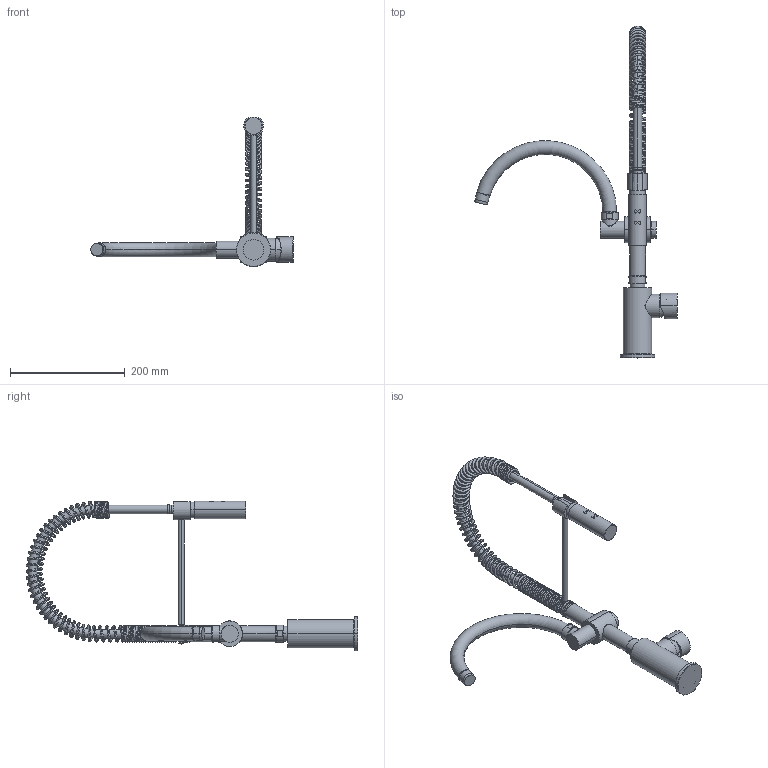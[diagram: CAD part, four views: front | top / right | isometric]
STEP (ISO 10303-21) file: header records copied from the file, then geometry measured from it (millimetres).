
FILE_DESCRIPTION((''),'2;1');
FILE_NAME('3D_SW0001','2014-07-31T',('ivanv'),(''),'PRO/ENGINEER BY PARAMETRIC TECHNOLOGY CORPORATION, 2012130','PRO/ENGINEER BY PARAMETRIC TECHNOLOGY CORPORATION, 2012130','');
FILE_SCHEMA(('CONFIG_CONTROL_DESIGN'));
Length unit declared in the file: millimetre
Products named in the file (1): 3D_SW0001
Bounding box: 352.83 x 578.77 x 261.1 mm (x, y, z)
Volume: 654024.5 mm3; surface area: 265860.6 mm2
Topology: 7 solids, 10 shells, 500 faces, 1162 edges, 692 vertices
Faces by surface type: cylinder 168, cone 124, plane 121, bspline 47, torus 34, sphere 6
Entity records: 30203 total; most frequent: CARTESIAN_POINT 19098, DIRECTION 2319, ORIENTED_EDGE 2280, EDGE_CURVE 1140, AXIS2_PLACEMENT_3D 957, VERTEX_POINT 692, EDGE_LOOP 556, CIRCLE 504
